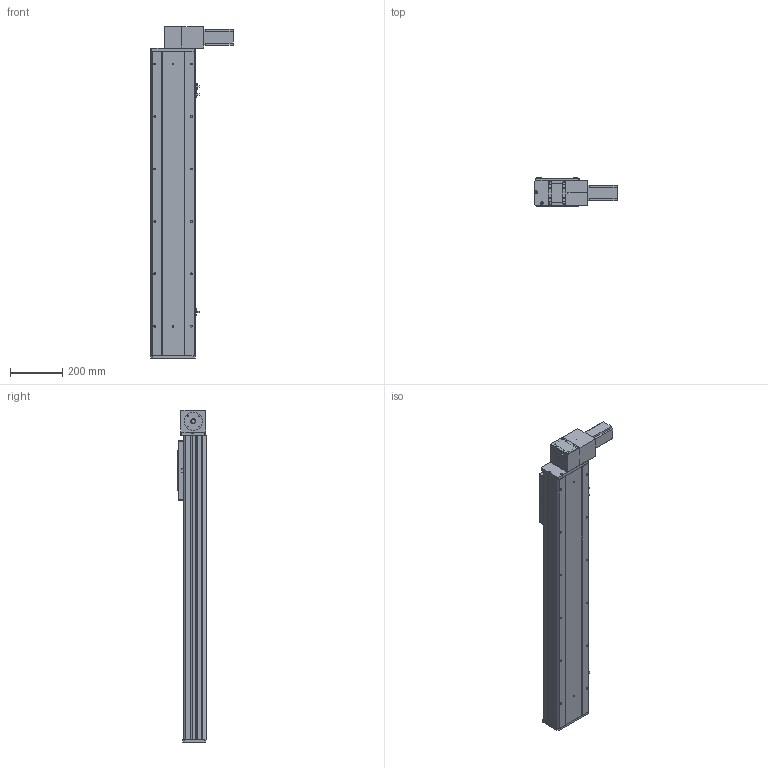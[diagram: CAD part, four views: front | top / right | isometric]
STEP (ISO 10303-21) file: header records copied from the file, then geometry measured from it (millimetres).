
FILE_DESCRIPTION (( 'STEP AP203' ), '1' );
FILE_NAME ('Y170CB-D105-S850-BD-P400W.STEP', '2020-02-20T08:29:07', ( '微软用户' ), ( '微软中国' ), 'SwSTEP 2.0', 'SolidWorks 2017', '' );
FILE_SCHEMA (( 'CONFIG_CONTROL_DESIGN' ));
Length unit declared in the file: millimetre
Products named in the file (16): 70CB--耜裔; --70CB --喘謫眊楊擘啣-; Y170CB-D105-S850-BD-P400W; 70C-雄赽釱-奻-; 70CB-耜裔啣-; 0C--雄赽釱俋欶-170; 70CB-詩湍--; Y100-135俋离換覜ん--; Y170CB-陔俋离換覜結え---; B-源倛裔啣; Y1埴倛裔; san松下电机400不带刹车----; 70B喘謫眊----; 70C--詩湍揤踡え-; 70CB-掛极-; 0B薊粣ん眊-400W--
Assembly tree (19 placements, depth 2):
  Y170CB-D105-S850-BD-P400W
    B-源倛裔啣
    san松下电机400不带刹车----
    70CB-掛极-
    --70CB --喘謫眊楊擘啣-
    70CB-耜裔啣-  x2
    70C--詩湍揤踡え-  x2
    70CB--耜裔
    70C-雄赽釱-奻-
    0C--雄赽釱俋欶-170
    70CB-詩湍--
    Y100-135俋离換覜ん--  x3
    Y170CB-陔俋离換覜結え---
    Y1埴倛裔
    70B喘謫眊----
    0B薊粣ん眊-400W--
Bounding box: 313.5 x 107 x 1266 mm (x, y, z)
Volume: 6236610.4 mm3; surface area: 2100682.5 mm2
Topology: 19 solids, 19 shells, 912 faces, 2402 edges, 1592 vertices
Faces by surface type: cylinder 466, plane 422, cone 24
Entity records: 28427 total; most frequent: CARTESIAN_POINT 5266, DIRECTION 4623, ORIENTED_EDGE 4286, EDGE_CURVE 2143, AXIS2_PLACEMENT_3D 1701, VERTEX_POINT 1422, LINE 1221, VECTOR 1221
